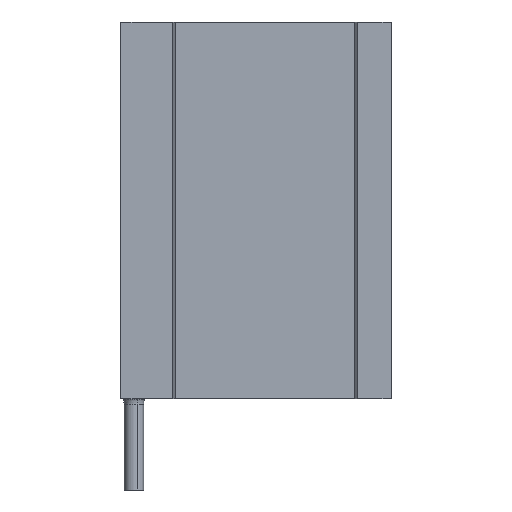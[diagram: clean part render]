
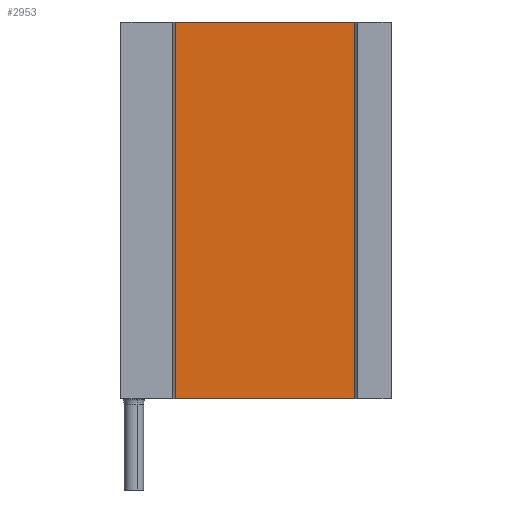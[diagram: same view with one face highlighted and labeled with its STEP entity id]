
A CAD part, left-side view. The second image highlights one B-rep face of the part: STEP entity #2953.
In plain terms, the highlighted planar face has unit normal (-1, 0, 0).
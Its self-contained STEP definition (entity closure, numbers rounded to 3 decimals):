
#42 = VECTOR ( 'NONE', #366, 1000. ) ;
#210 = ORIENTED_EDGE ( 'NONE', *, *, #1076, .F. ) ;
#319 = DIRECTION ( 'NONE',  ( 0., -1., 0. ) ) ;
#366 = DIRECTION ( 'NONE',  ( 0., 0., -1. ) ) ;
#384 = VECTOR ( 'NONE', #319, 1000. ) ;
#463 = LINE ( 'NONE', #2065, #535 ) ;
#478 = DIRECTION ( 'NONE',  ( 0., 0., 1. ) ) ;
#535 = VECTOR ( 'NONE', #478, 1000. ) ;
#541 = CARTESIAN_POINT ( 'NONE',  ( 66.6, 300.204, 280.517 ) ) ;
#554 = DIRECTION ( 'NONE',  ( 0., 0., -1. ) ) ;
#604 = LINE ( 'NONE', #1527, #42 ) ;
#768 = CARTESIAN_POINT ( 'NONE',  ( 66.6, 298.704, 280.517 ) ) ;
#784 = PLANE ( 'NONE',  #2442 ) ;
#926 = VERTEX_POINT ( 'NONE', #2636 ) ;
#1007 = CARTESIAN_POINT ( 'NONE',  ( 66.6, 300.204, 425.517 ) ) ;
#1076 = EDGE_CURVE ( 'NONE', #2112, #926, #604, .T. ) ;
#1245 = DIRECTION ( 'NONE',  ( 0., -1., 0. ) ) ;
#1300 = EDGE_CURVE ( 'NONE', #2909, #2887, #463, .T. ) ;
#1335 = CARTESIAN_POINT ( 'NONE',  ( 66.6, 231.204, 425.517 ) ) ;
#1430 = ORIENTED_EDGE ( 'NONE', *, *, #1544, .F. ) ;
#1479 = EDGE_CURVE ( 'NONE', #2909, #926, #1715, .T. ) ;
#1482 = CARTESIAN_POINT ( 'NONE',  ( 66.6, 298.704, 425.517 ) ) ;
#1496 = LINE ( 'NONE', #1482, #384 ) ;
#1527 = CARTESIAN_POINT ( 'NONE',  ( 66.6, 231.204, 425.517 ) ) ;
#1544 = EDGE_CURVE ( 'NONE', #2887, #2112, #1496, .T. ) ;
#1715 = LINE ( 'NONE', #768, #2170 ) ;
#1776 = EDGE_LOOP ( 'NONE', ( #2817, #210, #1430, #1922 ) ) ;
#1922 = ORIENTED_EDGE ( 'NONE', *, *, #1300, .F. ) ;
#2065 = CARTESIAN_POINT ( 'NONE',  ( 66.6, 300.204, 280.517 ) ) ;
#2112 = VERTEX_POINT ( 'NONE', #1335 ) ;
#2170 = VECTOR ( 'NONE', #1245, 1000. ) ;
#2425 = DIRECTION ( 'NONE',  ( 1., 0., 0. ) ) ;
#2442 = AXIS2_PLACEMENT_3D ( 'NONE', #2630, #2425, #554 ) ;
#2630 = CARTESIAN_POINT ( 'NONE',  ( 66.6, 298.704, 425.517 ) ) ;
#2636 = CARTESIAN_POINT ( 'NONE',  ( 66.6, 231.204, 280.517 ) ) ;
#2672 = FACE_OUTER_BOUND ( 'NONE', #1776, .T. ) ;
#2817 = ORIENTED_EDGE ( 'NONE', *, *, #1479, .T. ) ;
#2887 = VERTEX_POINT ( 'NONE', #1007 ) ;
#2909 = VERTEX_POINT ( 'NONE', #541 ) ;
#2953 = ADVANCED_FACE ( 'NONE', ( #2672 ), #784, .F. ) ;
